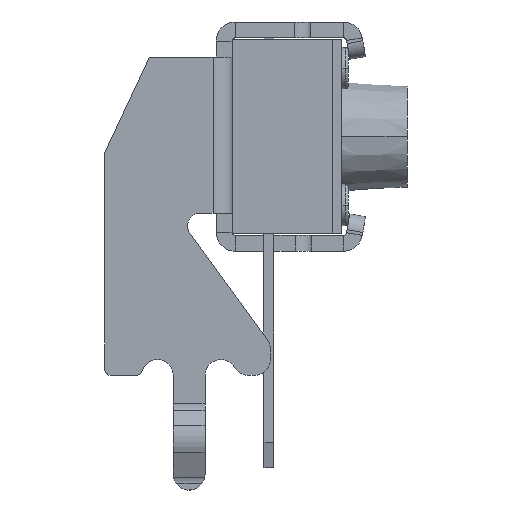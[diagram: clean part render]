
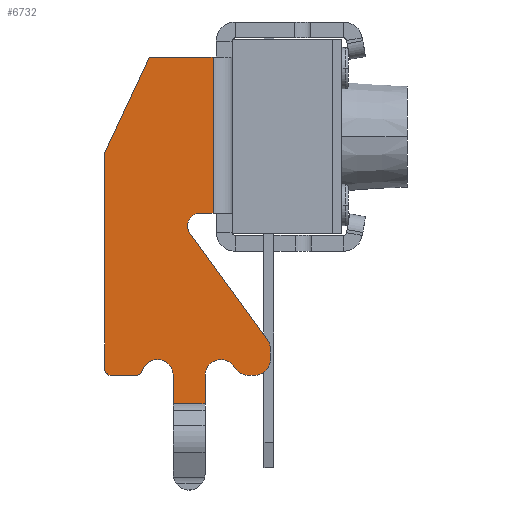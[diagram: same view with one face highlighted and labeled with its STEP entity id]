
A CAD part, left-side view. The second image highlights one B-rep face of the part: STEP entity #6732.
In plain terms, the highlighted planar face has unit normal (-1, 0, 0).
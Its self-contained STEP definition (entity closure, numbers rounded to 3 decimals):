
#4121=DIRECTION('',(0.,0.,1.));
#4122=VECTOR('',#4121,4.9);
#4123=CARTESIAN_POINT('',(-3.85,3.75,-2.4));
#4124=LINE('',#4123,#4122);
#4134=CARTESIAN_POINT('',(-3.85,6.95,-7.3));
#4135=DIRECTION('',(-1.,0.,0.));
#4136=DIRECTION('',(0.,1.,0.));
#4137=AXIS2_PLACEMENT_3D('',#4134,#4135,#4136);
#4139=DIRECTION('',(0.,0.423,-0.906));
#4140=VECTOR('',#4139,3.311);
#4141=CARTESIAN_POINT('',(-3.85,5.75,2.5));
#4142=LINE('',#4141,#4140);
#4143=DIRECTION('',(0.,1.,0.));
#4144=VECTOR('',#4143,2.);
#4145=CARTESIAN_POINT('',(-3.85,3.75,2.5));
#4146=LINE('',#4145,#4144);
#4147=DIRECTION('',(0.,1.,0.));
#4148=VECTOR('',#4147,0.4);
#4149=CARTESIAN_POINT('',(-3.85,3.75,-2.4));
#4150=LINE('',#4149,#4148);
#4151=CARTESIAN_POINT('',(-3.85,4.15,-2.8));
#4152=DIRECTION('',(1.,0.,0.));
#4153=DIRECTION('',(0.,0.808,-0.589));
#4154=AXIS2_PLACEMENT_3D('',#4151,#4152,#4153);
#4156=DIRECTION('',(0.,-0.589,-0.808));
#4157=VECTOR('',#4156,4.123);
#4158=CARTESIAN_POINT('',(-3.85,4.473,-3.035));
#4159=LINE('',#4158,#4157);
#4160=CARTESIAN_POINT('',(-3.85,2.45,-6.663));
#4161=DIRECTION('',(-1.,0.,0.));
#4162=DIRECTION('',(0.,-1.,0.));
#4163=AXIS2_PLACEMENT_3D('',#4160,#4161,#4162);
#4165=DIRECTION('',(0.,0.,-1.));
#4166=VECTOR('',#4165,0.337);
#4167=CARTESIAN_POINT('',(-3.85,1.95,-6.663));
#4168=LINE('',#4167,#4166);
#4169=CARTESIAN_POINT('',(-3.85,2.45,-7.));
#4170=DIRECTION('',(-1.,0.,0.));
#4171=DIRECTION('',(0.,0.,-1.));
#4172=AXIS2_PLACEMENT_3D('',#4169,#4170,#4171);
#4174=DIRECTION('',(0.,-1.,0.));
#4175=VECTOR('',#4174,0.184);
#4176=CARTESIAN_POINT('',(-3.85,2.634,-7.5));
#4177=LINE('',#4176,#4175);
#4178=CARTESIAN_POINT('',(-3.85,2.634,-7.));
#4179=DIRECTION('',(-1.,0.,0.));
#4180=DIRECTION('',(0.,0.866,-0.5));
#4181=AXIS2_PLACEMENT_3D('',#4178,#4179,#4180);
#4183=CARTESIAN_POINT('',(-3.85,3.5,-7.5));
#4184=DIRECTION('',(1.,0.,0.));
#4185=DIRECTION('',(0.,1.,0.));
#4186=AXIS2_PLACEMENT_3D('',#4183,#4184,#4185);
#4188=DIRECTION('',(0.,-1.,0.));
#4189=VECTOR('',#4188,1.);
#4190=CARTESIAN_POINT('',(-3.85,5.,-8.393));
#4191=LINE('',#4190,#4189);
#4192=CARTESIAN_POINT('',(-3.85,5.5,-7.5));
#4193=DIRECTION('',(1.,0.,0.));
#4194=DIRECTION('',(0.,0.958,0.286));
#4195=AXIS2_PLACEMENT_3D('',#4192,#4193,#4194);
#4197=CARTESIAN_POINT('',(-3.85,6.171,-7.3));
#4198=DIRECTION('',(-1.,0.,0.));
#4199=DIRECTION('',(0.,0.,-1.));
#4200=AXIS2_PLACEMENT_3D('',#4197,#4198,#4199);
#4202=DIRECTION('',(0.,-1.,0.));
#4203=VECTOR('',#4202,0.779);
#4204=CARTESIAN_POINT('',(-3.85,6.95,-7.5));
#4205=LINE('',#4204,#4203);
#4294=DIRECTION('',(0.,0.,-1.));
#4295=VECTOR('',#4294,0.893);
#4296=CARTESIAN_POINT('',(-3.85,5.,-7.5));
#4297=LINE('',#4296,#4295);
#4366=DIRECTION('',(0.,0.,-1.));
#4367=VECTOR('',#4366,0.893);
#4368=CARTESIAN_POINT('',(-3.85,4.,-7.5));
#4369=LINE('',#4368,#4367);
#4592=DIRECTION('',(0.,0.,-1.));
#4593=VECTOR('',#4592,6.8);
#4594=CARTESIAN_POINT('',(-3.85,7.15,-0.5));
#4595=LINE('',#4594,#4593);
#4728=CARTESIAN_POINT('',(-3.85,5.75,2.5));
#4729=CARTESIAN_POINT('',(-3.85,7.15,-0.5));
#4730=VERTEX_POINT('',#4728);
#4731=VERTEX_POINT('',#4729);
#4736=CARTESIAN_POINT('',(-3.85,3.75,2.5));
#4737=VERTEX_POINT('',#4736);
#4744=CARTESIAN_POINT('',(-3.85,4.,-7.5));
#4745=CARTESIAN_POINT('',(-3.85,4.,-8.393));
#4746=VERTEX_POINT('',#4744);
#4747=VERTEX_POINT('',#4745);
#4748=CARTESIAN_POINT('',(-3.85,5.,-7.5));
#4749=CARTESIAN_POINT('',(-3.85,5.,-8.393));
#4750=VERTEX_POINT('',#4748);
#4751=VERTEX_POINT('',#4749);
#4780=CARTESIAN_POINT('',(-3.85,7.15,-7.3));
#4781=VERTEX_POINT('',#4780);
#4782=CARTESIAN_POINT('',(-3.85,6.95,-7.5));
#4783=VERTEX_POINT('',#4782);
#4784=CARTESIAN_POINT('',(-3.85,6.171,-7.5));
#4785=CARTESIAN_POINT('',(-3.85,5.979,-7.357));
#4786=VERTEX_POINT('',#4784);
#4787=VERTEX_POINT('',#4785);
#4832=CARTESIAN_POINT('',(-3.85,3.067,-7.25));
#4833=VERTEX_POINT('',#4832);
#4836=CARTESIAN_POINT('',(-3.85,3.75,-2.4));
#4837=CARTESIAN_POINT('',(-3.85,4.15,-2.4));
#4838=VERTEX_POINT('',#4836);
#4839=VERTEX_POINT('',#4837);
#4840=CARTESIAN_POINT('',(-3.85,4.473,-3.035));
#4841=VERTEX_POINT('',#4840);
#4848=CARTESIAN_POINT('',(-3.85,1.95,-6.663));
#4849=CARTESIAN_POINT('',(-3.85,2.046,-6.368));
#4850=VERTEX_POINT('',#4848);
#4851=VERTEX_POINT('',#4849);
#4856=CARTESIAN_POINT('',(-3.85,2.45,-7.5));
#4857=CARTESIAN_POINT('',(-3.85,1.95,-7.));
#4858=VERTEX_POINT('',#4856);
#4859=VERTEX_POINT('',#4857);
#4864=CARTESIAN_POINT('',(-3.85,2.634,-7.5));
#4865=VERTEX_POINT('',#4864);
#6686=CARTESIAN_POINT('',(-3.85,3.15,3.));
#6687=DIRECTION('',(-1.,0.,0.));
#6688=DIRECTION('',(0.,0.,1.));
#6689=AXIS2_PLACEMENT_3D('',#6686,#6687,#6688);
#6690=PLANE('',#6689);
#6692=ORIENTED_EDGE('',*,*,#6691,.F.);
#6694=ORIENTED_EDGE('',*,*,#6693,.F.);
#6696=ORIENTED_EDGE('',*,*,#6695,.F.);
#6698=ORIENTED_EDGE('',*,*,#6697,.F.);
#6699=ORIENTED_EDGE('',*,*,#6679,.F.);
#6701=ORIENTED_EDGE('',*,*,#6700,.T.);
#6703=ORIENTED_EDGE('',*,*,#6702,.F.);
#6705=ORIENTED_EDGE('',*,*,#6704,.T.);
#6707=ORIENTED_EDGE('',*,*,#6706,.F.);
#6709=ORIENTED_EDGE('',*,*,#6708,.T.);
#6711=ORIENTED_EDGE('',*,*,#6710,.F.);
#6713=ORIENTED_EDGE('',*,*,#6712,.F.);
#6715=ORIENTED_EDGE('',*,*,#6714,.F.);
#6717=ORIENTED_EDGE('',*,*,#6716,.F.);
#6719=ORIENTED_EDGE('',*,*,#6718,.T.);
#6721=ORIENTED_EDGE('',*,*,#6720,.F.);
#6723=ORIENTED_EDGE('',*,*,#6722,.F.);
#6725=ORIENTED_EDGE('',*,*,#6724,.F.);
#6727=ORIENTED_EDGE('',*,*,#6726,.F.);
#6729=ORIENTED_EDGE('',*,*,#6728,.F.);
#6730=EDGE_LOOP('',(#6692,#6694,#6696,#6698,#6699,#6701,#6703,#6705,#6707,#6709,
#6711,#6713,#6715,#6717,#6719,#6721,#6723,#6725,#6727,#6729));
#6731=FACE_OUTER_BOUND('',#6730,.F.);
#4138=CIRCLE('',#4137,0.2);
#4155=CIRCLE('',#4154,0.4);
#4164=CIRCLE('',#4163,0.5);
#4173=CIRCLE('',#4172,0.5);
#4182=CIRCLE('',#4181,0.5);
#4187=CIRCLE('',#4186,0.5);
#4196=CIRCLE('',#4195,0.5);
#4201=CIRCLE('',#4200,0.2);
#6679=EDGE_CURVE('',#4838,#4737,#4124,.T.);
#6691=EDGE_CURVE('',#4781,#4783,#4138,.T.);
#6693=EDGE_CURVE('',#4731,#4781,#4595,.T.);
#6695=EDGE_CURVE('',#4730,#4731,#4142,.T.);
#6697=EDGE_CURVE('',#4737,#4730,#4146,.T.);
#6700=EDGE_CURVE('',#4838,#4839,#4150,.T.);
#6702=EDGE_CURVE('',#4841,#4839,#4155,.T.);
#6704=EDGE_CURVE('',#4841,#4851,#4159,.T.);
#6706=EDGE_CURVE('',#4850,#4851,#4164,.T.);
#6708=EDGE_CURVE('',#4850,#4859,#4168,.T.);
#6710=EDGE_CURVE('',#4858,#4859,#4173,.T.);
#6712=EDGE_CURVE('',#4865,#4858,#4177,.T.);
#6714=EDGE_CURVE('',#4833,#4865,#4182,.T.);
#6716=EDGE_CURVE('',#4746,#4833,#4187,.T.);
#6718=EDGE_CURVE('',#4746,#4747,#4369,.T.);
#6720=EDGE_CURVE('',#4751,#4747,#4191,.T.);
#6722=EDGE_CURVE('',#4750,#4751,#4297,.T.);
#6724=EDGE_CURVE('',#4787,#4750,#4196,.T.);
#6726=EDGE_CURVE('',#4786,#4787,#4201,.T.);
#6728=EDGE_CURVE('',#4783,#4786,#4205,.T.);
#6732=ADVANCED_FACE('',(#6731),#6690,.T.);
